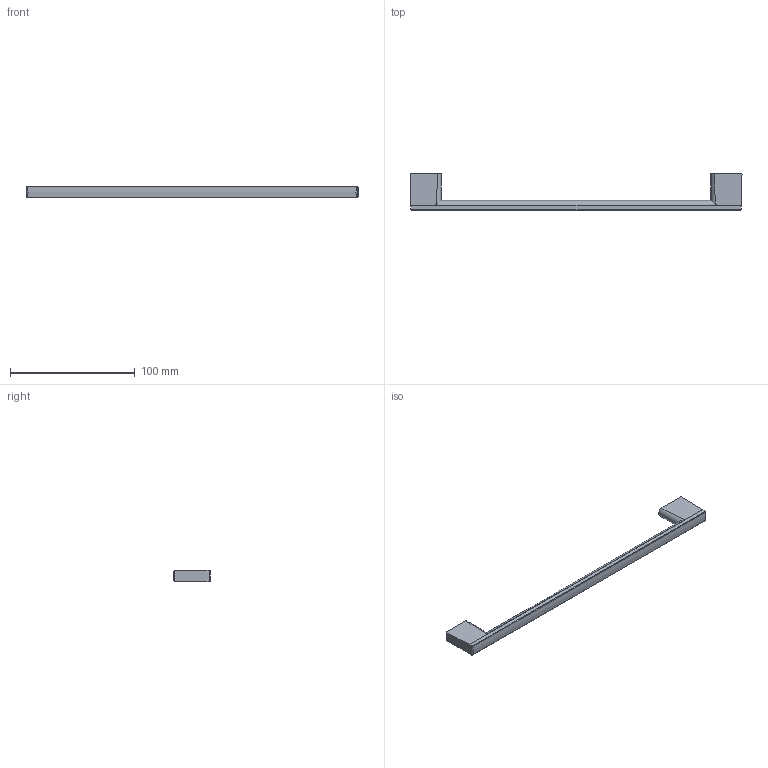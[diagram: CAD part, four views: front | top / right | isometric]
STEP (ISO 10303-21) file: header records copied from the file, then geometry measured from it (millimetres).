
FILE_DESCRIPTION( ( 'STEP AP214' ), '1' );
FILE_NAME( 'C:/Users/KOSH/Desktop/2021/Sunil/New folder/43506.stp', '2021-11-15T13:15:38', ( '' ), ( '' ), ' ', 'PARTsolutions', ' ' );
FILE_SCHEMA( ( 'AUTOMOTIVE_DESIGN { 1 0 10303 214 1 1 1 1 }' ) );
Length unit declared in the file: millimetre
Products named in the file (1): _43506
Bounding box: 266.37 x 29.6 x 9 mm (x, y, z)
Volume: 25253.8 mm3; surface area: 11287.6 mm2
Topology: 1 solids, 1 shells, 28 faces, 68 edges, 46 vertices
Faces by surface type: cylinder 15, plane 13
Full cylindrical faces by diameter (mm): 4 x4
Entity records: 1144 total; most frequent: CARTESIAN_POINT 255, DIRECTION 134, ORIENTED_EDGE 128, EDGE_CURVE 64, AXIS2_PLACEMENT_3D 53, VERTEX_POINT 46, EDGE_LOOP 36, FACE_OUTER_BOUND 32
